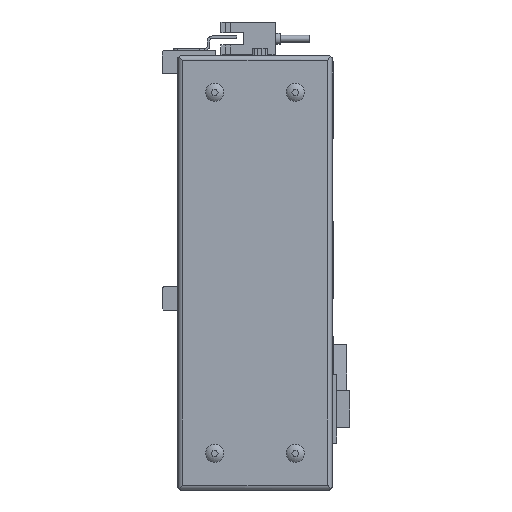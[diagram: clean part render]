
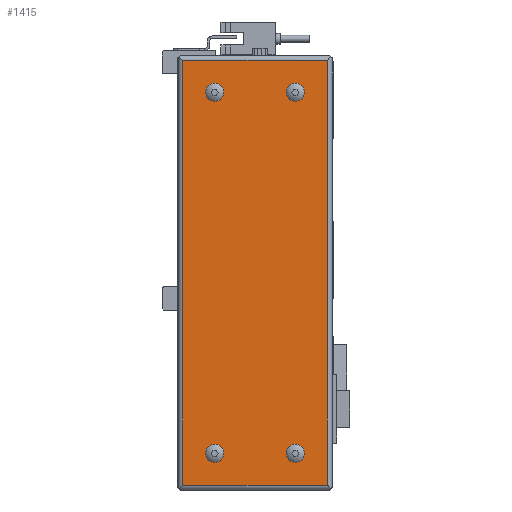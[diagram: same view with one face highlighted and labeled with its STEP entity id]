
A CAD part, left-side view. The second image highlights one B-rep face of the part: STEP entity #1415.
In plain terms, the highlighted planar face has unit normal (-1, 0, 0).
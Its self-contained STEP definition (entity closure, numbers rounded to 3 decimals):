
#1415 = ADVANCED_FACE( '', ( #3248, #3249, #3250, #3251, #3252 ), #3253, .F. );
#3248 = FACE_BOUND( '', #5653, .T. );
#3249 = FACE_BOUND( '', #5654, .T. );
#3250 = FACE_BOUND( '', #5655, .T. );
#3251 = FACE_BOUND( '', #5656, .T. );
#3252 = FACE_OUTER_BOUND( '', #5657, .T. );
#3253 = PLANE( '', #5658 );
#5653 = EDGE_LOOP( '', ( #9565 ) );
#5654 = EDGE_LOOP( '', ( #9566 ) );
#5655 = EDGE_LOOP( '', ( #9567 ) );
#5656 = EDGE_LOOP( '', ( #9568 ) );
#5657 = EDGE_LOOP( '', ( #9569, #9570, #9571, #9572 ) );
#5658 = AXIS2_PLACEMENT_3D( '', #9573, #9574, #9575 );
#9565 = ORIENTED_EDGE( '', *, *, #15153, .F. );
#9566 = ORIENTED_EDGE( '', *, *, #15154, .F. );
#9567 = ORIENTED_EDGE( '', *, *, #15155, .F. );
#9568 = ORIENTED_EDGE( '', *, *, #15156, .F. );
#9569 = ORIENTED_EDGE( '', *, *, #14820, .F. );
#9570 = ORIENTED_EDGE( '', *, *, #14998, .F. );
#9571 = ORIENTED_EDGE( '', *, *, #15157, .T. );
#9572 = ORIENTED_EDGE( '', *, *, #14294, .T. );
#9573 = CARTESIAN_POINT( '', ( -52., 0., 0. ) );
#9574 = DIRECTION( '', ( 1., 0., 0. ) );
#9575 = DIRECTION( '', ( 0., 0., -1. ) );
#14294 = EDGE_CURVE( '', #17247, #17245, #17248, .T. );
#14820 = EDGE_CURVE( '', #18122, #17245, #18124, .T. );
#14998 = EDGE_CURVE( '', #18399, #18122, #18401, .T. );
#15153 = EDGE_CURVE( '', #18631, #18631, #18632, .F. );
#15154 = EDGE_CURVE( '', #18633, #18633, #18634, .F. );
#15155 = EDGE_CURVE( '', #18635, #18635, #18636, .F. );
#15156 = EDGE_CURVE( '', #18637, #18637, #18638, .F. );
#15157 = EDGE_CURVE( '', #18399, #17247, #18639, .T. );
#17245 = VERTEX_POINT( '', #21448 );
#17247 = VERTEX_POINT( '', #21450 );
#17248 = LINE( '', #21451, #21452 );
#18122 = VERTEX_POINT( '', #22723 );
#18124 = LINE( '', #22725, #22726 );
#18399 = VERTEX_POINT( '', #23196 );
#18401 = LINE( '', #23198, #23199 );
#18631 = VERTEX_POINT( '', #23610 );
#18632 = CIRCLE( '', #23611, 3.7 );
#18633 = VERTEX_POINT( '', #23612 );
#18634 = CIRCLE( '', #23613, 3.7 );
#18635 = VERTEX_POINT( '', #23614 );
#18636 = CIRCLE( '', #23615, 3.7 );
#18637 = VERTEX_POINT( '', #23616 );
#18638 = CIRCLE( '', #23617, 3.7 );
#18639 = LINE( '', #23618, #23619 );
#21448 = CARTESIAN_POINT( '', ( -52., 2.5, -124.5 ) );
#21450 = CARTESIAN_POINT( '', ( -52., 61.5, -124.5 ) );
#21451 = CARTESIAN_POINT( '', ( -52., 177.5, -124.5 ) );
#21452 = VECTOR( '', #26459, 1000. );
#22723 = CARTESIAN_POINT( '', ( -52., 2.5, 49. ) );
#22725 = CARTESIAN_POINT( '', ( -52., 2.5, 177.5 ) );
#22726 = VECTOR( '', #27056, 1000. );
#23196 = CARTESIAN_POINT( '', ( -52., 61.5, 49. ) );
#23198 = CARTESIAN_POINT( '', ( -52., 177.5, 49. ) );
#23199 = VECTOR( '', #27265, 1000. );
#23610 = CARTESIAN_POINT( '', ( -52., 48.5, -115.2 ) );
#23611 = AXIS2_PLACEMENT_3D( '', #27446, #27447, #27448 );
#23612 = CARTESIAN_POINT( '', ( -52., 15.5, 32.3 ) );
#23613 = AXIS2_PLACEMENT_3D( '', #27449, #27450, #27451 );
#23614 = CARTESIAN_POINT( '', ( -52., 15.5, -115.2 ) );
#23615 = AXIS2_PLACEMENT_3D( '', #27452, #27453, #27454 );
#23616 = CARTESIAN_POINT( '', ( -52., 48.5, 32.3 ) );
#23617 = AXIS2_PLACEMENT_3D( '', #27455, #27456, #27457 );
#23618 = CARTESIAN_POINT( '', ( -52., 61.5, 177.5 ) );
#23619 = VECTOR( '', #27458, 1000. );
#26459 = DIRECTION( '', ( 0., -1., 0. ) );
#27056 = DIRECTION( '', ( 0., 0., -1. ) );
#27265 = DIRECTION( '', ( 0., -1., 0. ) );
#27446 = CARTESIAN_POINT( '', ( -52., 48.5, -111.5 ) );
#27447 = DIRECTION( '', ( 1., 0., 0. ) );
#27448 = DIRECTION( '', ( 0., 0., -1. ) );
#27449 = CARTESIAN_POINT( '', ( -52., 15.5, 36. ) );
#27450 = DIRECTION( '', ( 1., 0., 0. ) );
#27451 = DIRECTION( '', ( 0., 0., -1. ) );
#27452 = CARTESIAN_POINT( '', ( -52., 15.5, -111.5 ) );
#27453 = DIRECTION( '', ( 1., 0., 0. ) );
#27454 = DIRECTION( '', ( 0., 0., -1. ) );
#27455 = CARTESIAN_POINT( '', ( -52., 48.5, 36. ) );
#27456 = DIRECTION( '', ( 1., 0., 0. ) );
#27457 = DIRECTION( '', ( 0., 0., -1. ) );
#27458 = DIRECTION( '', ( 0., 0., -1. ) );
